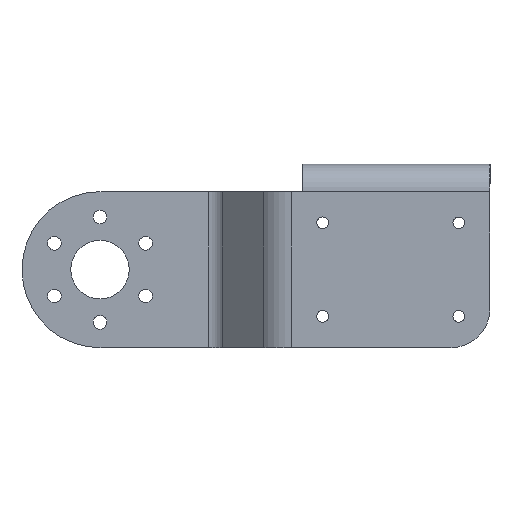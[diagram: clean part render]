
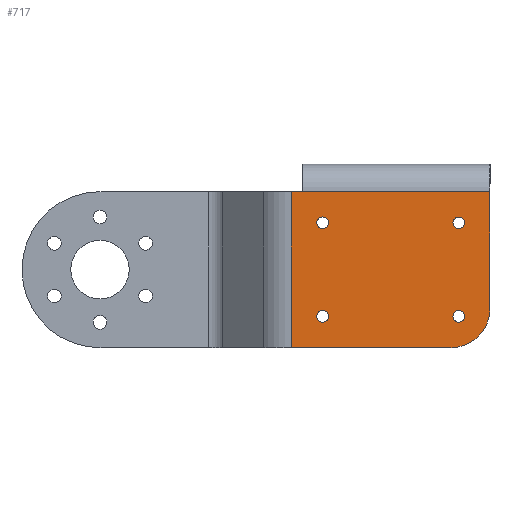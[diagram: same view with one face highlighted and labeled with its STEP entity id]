
A CAD part, front view. The second image highlights one B-rep face of the part: STEP entity #717.
In plain terms, the highlighted planar face has unit normal (0, -1, 0).
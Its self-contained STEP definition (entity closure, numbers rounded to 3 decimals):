
#57 = EDGE_CURVE ( 'NONE', #692, #1346, #1058, .T. ) ;
#58 = DIRECTION ( 'NONE',  ( 0., -1., 0. ) ) ;
#68 = FACE_BOUND ( 'NONE', #1459, .T. ) ;
#82 = CARTESIAN_POINT ( 'NONE',  ( 57.071, 0., -10.5 ) ) ;
#92 = VERTEX_POINT ( 'NONE', #516 ) ;
#97 = EDGE_CURVE ( 'NONE', #1618, #1189, #876, .T. ) ;
#117 = AXIS2_PLACEMENT_3D ( 'NONE', #1565, #1904, #1439 ) ;
#125 = AXIS2_PLACEMENT_3D ( 'NONE', #765, #667, #812 ) ;
#126 = CARTESIAN_POINT ( 'NONE',  ( 92., 0., 12. ) ) ;
#146 = ORIENTED_EDGE ( 'NONE', *, *, #1062, .F. ) ;
#162 = EDGE_CURVE ( 'NONE', #774, #1460, #1611, .T. ) ;
#172 = DIRECTION ( 'NONE',  ( 1., 0., 0. ) ) ;
#199 = DIRECTION ( 'NONE',  ( 0., 1., 0. ) ) ;
#216 = LINE ( 'NONE', #679, #1501 ) ;
#234 = ORIENTED_EDGE ( 'NONE', *, *, #1722, .F. ) ;
#263 = DIRECTION ( 'NONE',  ( 0., 0., 1. ) ) ;
#265 = CARTESIAN_POINT ( 'NONE',  ( 52., 0., 20. ) ) ;
#276 = VERTEX_POINT ( 'NONE', #1661 ) ;
#278 = DIRECTION ( 'NONE',  ( 0., 0., -1. ) ) ;
#317 = ORIENTED_EDGE ( 'NONE', *, *, #162, .F. ) ;
#338 = DIRECTION ( 'NONE',  ( 0., 0., -1. ) ) ;
#344 = PLANE ( 'NONE',  #1765 ) ;
#348 = CARTESIAN_POINT ( 'NONE',  ( 49.071, 0., -20. ) ) ;
#351 = EDGE_LOOP ( 'NONE', ( #880, #146 ) ) ;
#372 = CARTESIAN_POINT ( 'NONE',  ( 49.071, 0., -20. ) ) ;
#409 = AXIS2_PLACEMENT_3D ( 'NONE', #1803, #1299, #1598 ) ;
#450 = ORIENTED_EDGE ( 'NONE', *, *, #1847, .F. ) ;
#460 = DIRECTION ( 'NONE',  ( 0., -1., 0. ) ) ;
#477 = VERTEX_POINT ( 'NONE', #1303 ) ;
#496 = EDGE_CURVE ( 'NONE', #477, #960, #1003, .T. ) ;
#508 = LINE ( 'NONE', #780, #622 ) ;
#516 = CARTESIAN_POINT ( 'NONE',  ( 57.071, 0., 13.5 ) ) ;
#567 = VECTOR ( 'NONE', #172, 1000. ) ;
#578 = DIRECTION ( 'NONE',  ( 0., -1., 0. ) ) ;
#585 = CARTESIAN_POINT ( 'NONE',  ( 57.071, 0., 10.5 ) ) ;
#588 = CARTESIAN_POINT ( 'NONE',  ( 57.071, 0., -12. ) ) ;
#590 = AXIS2_PLACEMENT_3D ( 'NONE', #126, #861, #1311 ) ;
#602 = CARTESIAN_POINT ( 'NONE',  ( 90., 0., -20. ) ) ;
#622 = VECTOR ( 'NONE', #1649, 1000. ) ;
#624 = CARTESIAN_POINT ( 'NONE',  ( 49.071, 0., 20. ) ) ;
#638 = DIRECTION ( 'NONE',  ( 0., 0., -1. ) ) ;
#656 = DIRECTION ( 'NONE',  ( 0., 0., -1. ) ) ;
#667 = DIRECTION ( 'NONE',  ( 0., -1., 0. ) ) ;
#669 = CARTESIAN_POINT ( 'NONE',  ( 92., 0., -10.5 ) ) ;
#679 = CARTESIAN_POINT ( 'NONE',  ( 0., 0., 20. ) ) ;
#692 = VERTEX_POINT ( 'NONE', #372 ) ;
#717 = ADVANCED_FACE ( 'NONE', ( #948, #1528, #68, #1842, #1227 ), #344, .F. ) ;
#721 = CIRCLE ( 'NONE', #117, 1.5 ) ;
#765 = CARTESIAN_POINT ( 'NONE',  ( 57.071, 0., -12. ) ) ;
#774 = VERTEX_POINT ( 'NONE', #1263 ) ;
#780 = CARTESIAN_POINT ( 'NONE',  ( 0., 0., 20. ) ) ;
#812 = DIRECTION ( 'NONE',  ( 0., 0., -1. ) ) ;
#813 = EDGE_CURVE ( 'NONE', #987, #92, #1640, .T. ) ;
#814 = DIRECTION ( 'NONE',  ( 0., 0., 1. ) ) ;
#838 = VERTEX_POINT ( 'NONE', #669 ) ;
#861 = DIRECTION ( 'NONE',  ( 0., -1., 0. ) ) ;
#876 = CIRCLE ( 'NONE', #125, 1.5 ) ;
#880 = ORIENTED_EDGE ( 'NONE', *, *, #1036, .F. ) ;
#895 = CIRCLE ( 'NONE', #1759, 10. ) ;
#940 = DIRECTION ( 'NONE',  ( -1., 0., 0. ) ) ;
#948 = FACE_BOUND ( 'NONE', #351, .T. ) ;
#954 = CARTESIAN_POINT ( 'NONE',  ( 92., 0., -12. ) ) ;
#960 = VERTEX_POINT ( 'NONE', #1751 ) ;
#987 = VERTEX_POINT ( 'NONE', #585 ) ;
#1003 = LINE ( 'NONE', #1601, #1403 ) ;
#1036 = EDGE_CURVE ( 'NONE', #276, #838, #1430, .T. ) ;
#1042 = ORIENTED_EDGE ( 'NONE', *, *, #97, .F. ) ;
#1054 = EDGE_CURVE ( 'NONE', #1405, #1110, #216, .T. ) ;
#1057 = AXIS2_PLACEMENT_3D ( 'NONE', #1853, #58, #656 ) ;
#1058 = LINE ( 'NONE', #1539, #567 ) ;
#1062 = EDGE_CURVE ( 'NONE', #838, #276, #1315, .T. ) ;
#1073 = ORIENTED_EDGE ( 'NONE', *, *, #813, .F. ) ;
#1110 = VERTEX_POINT ( 'NONE', #624 ) ;
#1180 = ORIENTED_EDGE ( 'NONE', *, *, #1491, .T. ) ;
#1189 = VERTEX_POINT ( 'NONE', #1577 ) ;
#1190 = EDGE_LOOP ( 'NONE', ( #1073, #1379 ) ) ;
#1205 = DIRECTION ( 'NONE',  ( 0., 0., -1. ) ) ;
#1218 = CARTESIAN_POINT ( 'NONE',  ( 92., 0., 10.5 ) ) ;
#1227 = FACE_OUTER_BOUND ( 'NONE', #1289, .T. ) ;
#1252 = CARTESIAN_POINT ( 'NONE',  ( 0., 0., 0. ) ) ;
#1263 = CARTESIAN_POINT ( 'NONE',  ( 92., 0., 13.5 ) ) ;
#1275 = CARTESIAN_POINT ( 'NONE',  ( 90., 0., -10. ) ) ;
#1282 = AXIS2_PLACEMENT_3D ( 'NONE', #588, #1342, #278 ) ;
#1289 = EDGE_LOOP ( 'NONE', ( #1743, #1180, #1399, #1529, #1819, #1854 ) ) ;
#1299 = DIRECTION ( 'NONE',  ( 0., -1., 0. ) ) ;
#1303 = CARTESIAN_POINT ( 'NONE',  ( 100., 0., -10. ) ) ;
#1311 = DIRECTION ( 'NONE',  ( 0., 0., -1. ) ) ;
#1315 = CIRCLE ( 'NONE', #1816, 1.5 ) ;
#1342 = DIRECTION ( 'NONE',  ( 0., -1., 0. ) ) ;
#1344 = AXIS2_PLACEMENT_3D ( 'NONE', #954, #1641, #338 ) ;
#1346 = VERTEX_POINT ( 'NONE', #602 ) ;
#1350 = CARTESIAN_POINT ( 'NONE',  ( 92., 0., -12. ) ) ;
#1379 = ORIENTED_EDGE ( 'NONE', *, *, #1728, .F. ) ;
#1399 = ORIENTED_EDGE ( 'NONE', *, *, #57, .T. ) ;
#1402 = CIRCLE ( 'NONE', #1282, 1.5 ) ;
#1403 = VECTOR ( 'NONE', #1584, 1000. ) ;
#1405 = VERTEX_POINT ( 'NONE', #265 ) ;
#1430 = CIRCLE ( 'NONE', #1344, 1.5 ) ;
#1439 = DIRECTION ( 'NONE',  ( 0., 0., -1. ) ) ;
#1459 = EDGE_LOOP ( 'NONE', ( #450, #1042 ) ) ;
#1460 = VERTEX_POINT ( 'NONE', #1218 ) ;
#1466 = EDGE_CURVE ( 'NONE', #960, #1405, #508, .T. ) ;
#1491 = EDGE_CURVE ( 'NONE', #1110, #692, #1672, .T. ) ;
#1501 = VECTOR ( 'NONE', #940, 1000. ) ;
#1528 = FACE_BOUND ( 'NONE', #1190, .T. ) ;
#1529 = ORIENTED_EDGE ( 'NONE', *, *, #1735, .T. ) ;
#1539 = CARTESIAN_POINT ( 'NONE',  ( 0., 0., -20. ) ) ;
#1550 = CIRCLE ( 'NONE', #590, 1.5 ) ;
#1565 = CARTESIAN_POINT ( 'NONE',  ( 57.071, 0., 12. ) ) ;
#1577 = CARTESIAN_POINT ( 'NONE',  ( 57.071, 0., -13.5 ) ) ;
#1584 = DIRECTION ( 'NONE',  ( 0., 0., 1. ) ) ;
#1598 = DIRECTION ( 'NONE',  ( 0., 0., -1. ) ) ;
#1601 = CARTESIAN_POINT ( 'NONE',  ( 100., 0., 0. ) ) ;
#1611 = CIRCLE ( 'NONE', #409, 1.5 ) ;
#1618 = VERTEX_POINT ( 'NONE', #82 ) ;
#1640 = CIRCLE ( 'NONE', #1057, 1.5 ) ;
#1641 = DIRECTION ( 'NONE',  ( 0., -1., 0. ) ) ;
#1649 = DIRECTION ( 'NONE',  ( -1., 0., 0. ) ) ;
#1661 = CARTESIAN_POINT ( 'NONE',  ( 92., 0., -13.5 ) ) ;
#1672 = LINE ( 'NONE', #348, #1701 ) ;
#1701 = VECTOR ( 'NONE', #1205, 1000. ) ;
#1722 = EDGE_CURVE ( 'NONE', #1460, #774, #1550, .T. ) ;
#1728 = EDGE_CURVE ( 'NONE', #92, #987, #721, .T. ) ;
#1735 = EDGE_CURVE ( 'NONE', #1346, #477, #895, .T. ) ;
#1743 = ORIENTED_EDGE ( 'NONE', *, *, #1054, .T. ) ;
#1751 = CARTESIAN_POINT ( 'NONE',  ( 100., 0., 20. ) ) ;
#1759 = AXIS2_PLACEMENT_3D ( 'NONE', #1275, #578, #263 ) ;
#1765 = AXIS2_PLACEMENT_3D ( 'NONE', #1252, #199, #814 ) ;
#1768 = EDGE_LOOP ( 'NONE', ( #234, #317 ) ) ;
#1803 = CARTESIAN_POINT ( 'NONE',  ( 92., 0., 12. ) ) ;
#1816 = AXIS2_PLACEMENT_3D ( 'NONE', #1350, #460, #638 ) ;
#1819 = ORIENTED_EDGE ( 'NONE', *, *, #496, .T. ) ;
#1842 = FACE_BOUND ( 'NONE', #1768, .T. ) ;
#1847 = EDGE_CURVE ( 'NONE', #1189, #1618, #1402, .T. ) ;
#1853 = CARTESIAN_POINT ( 'NONE',  ( 57.071, 0., 12. ) ) ;
#1854 = ORIENTED_EDGE ( 'NONE', *, *, #1466, .T. ) ;
#1904 = DIRECTION ( 'NONE',  ( 0., -1., 0. ) ) ;
